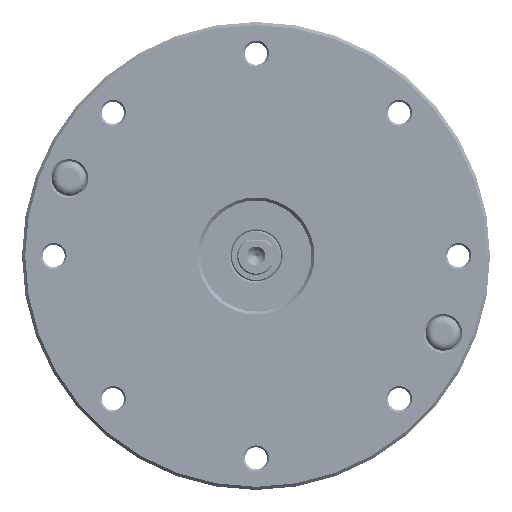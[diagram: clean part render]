
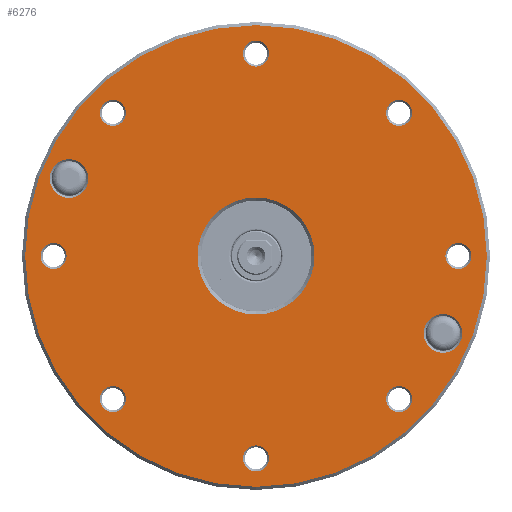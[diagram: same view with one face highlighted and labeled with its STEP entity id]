
A CAD part, front view. The second image highlights one B-rep face of the part: STEP entity #6276.
In plain terms, the highlighted planar face has unit normal (0, -1, 0) as drawn and (0, 0, -1) by its records, which use the part's own axes.
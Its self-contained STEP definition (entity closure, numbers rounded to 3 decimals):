
#5353=PLANE('',#18880);
#6276=ADVANCED_FACE('',(#7507,#7508,#7509,#7510,#7511,#7512,#7513,#7514,
#7515,#7516,#7517,#7518),#5353,.F.);
#7507=FACE_BOUND('',#8848,.T.);
#7508=FACE_BOUND('',#8849,.T.);
#7509=FACE_BOUND('',#8850,.T.);
#7510=FACE_BOUND('',#8851,.T.);
#7511=FACE_BOUND('',#8852,.T.);
#7512=FACE_BOUND('',#8853,.T.);
#7513=FACE_BOUND('',#8854,.T.);
#7514=FACE_BOUND('',#8855,.T.);
#7515=FACE_BOUND('',#8856,.T.);
#7516=FACE_BOUND('',#8857,.T.);
#7517=FACE_BOUND('',#8858,.T.);
#7518=FACE_BOUND('',#8859,.T.);
#8848=EDGE_LOOP('',(#11488));
#8849=EDGE_LOOP('',(#11489));
#8850=EDGE_LOOP('',(#11490));
#8851=EDGE_LOOP('',(#11491));
#8852=EDGE_LOOP('',(#11492));
#8853=EDGE_LOOP('',(#11493));
#8854=EDGE_LOOP('',(#11494));
#8855=EDGE_LOOP('',(#11495));
#8856=EDGE_LOOP('',(#11496));
#8857=EDGE_LOOP('',(#11497));
#8858=EDGE_LOOP('',(#11498));
#8859=EDGE_LOOP('',(#11499));
#11488=ORIENTED_EDGE('',*,*,#16320,.T.);
#11489=ORIENTED_EDGE('',*,*,#16321,.T.);
#11490=ORIENTED_EDGE('',*,*,#16322,.T.);
#11491=ORIENTED_EDGE('',*,*,#16323,.T.);
#11492=ORIENTED_EDGE('',*,*,#16324,.T.);
#11493=ORIENTED_EDGE('',*,*,#16325,.T.);
#11494=ORIENTED_EDGE('',*,*,#16326,.T.);
#11495=ORIENTED_EDGE('',*,*,#16327,.T.);
#11496=ORIENTED_EDGE('',*,*,#16328,.T.);
#11497=ORIENTED_EDGE('',*,*,#16329,.T.);
#11498=ORIENTED_EDGE('',*,*,#16330,.T.);
#11499=ORIENTED_EDGE('',*,*,#16331,.T.);
#14541=VERTEX_POINT('',#94892);
#14542=VERTEX_POINT('',#94894);
#14543=VERTEX_POINT('',#94896);
#14544=VERTEX_POINT('',#94898);
#14545=VERTEX_POINT('',#94900);
#14546=VERTEX_POINT('',#94902);
#14547=VERTEX_POINT('',#94904);
#14548=VERTEX_POINT('',#94906);
#14549=VERTEX_POINT('',#94908);
#14550=VERTEX_POINT('',#94910);
#14551=VERTEX_POINT('',#94912);
#14552=VERTEX_POINT('',#94914);
#16320=EDGE_CURVE('',#14541,#14541,#17776,.T.);
#16321=EDGE_CURVE('',#14542,#14542,#17777,.T.);
#16322=EDGE_CURVE('',#14543,#14543,#17778,.T.);
#16323=EDGE_CURVE('',#14544,#14544,#17779,.T.);
#16324=EDGE_CURVE('',#14545,#14545,#17780,.T.);
#16325=EDGE_CURVE('',#14546,#14546,#17781,.T.);
#16326=EDGE_CURVE('',#14547,#14547,#17782,.T.);
#16327=EDGE_CURVE('',#14548,#14548,#17783,.T.);
#16328=EDGE_CURVE('',#14549,#14549,#17784,.T.);
#16329=EDGE_CURVE('',#14550,#14550,#17785,.T.);
#16330=EDGE_CURVE('',#14551,#14551,#17786,.T.);
#16331=EDGE_CURVE('',#14552,#14552,#17787,.T.);
#17776=CIRCLE('',#18868,2.05);
#17777=CIRCLE('',#18869,3.05);
#17778=CIRCLE('',#18870,2.05);
#17779=CIRCLE('',#18871,2.05);
#17780=CIRCLE('',#18872,2.05);
#17781=CIRCLE('',#18873,2.05);
#17782=CIRCLE('',#18874,2.05);
#17783=CIRCLE('',#18875,2.05);
#17784=CIRCLE('',#18876,3.05);
#17785=CIRCLE('',#18877,2.05);
#17786=CIRCLE('',#18878,9.25);
#17787=CIRCLE('',#18879,36.5);
#18868=AXIS2_PLACEMENT_3D('',#94891,#21369,#21370);
#18869=AXIS2_PLACEMENT_3D('',#94893,#21371,#21372);
#18870=AXIS2_PLACEMENT_3D('',#94895,#21373,#21374);
#18871=AXIS2_PLACEMENT_3D('',#94897,#21375,#21376);
#18872=AXIS2_PLACEMENT_3D('',#94899,#21377,#21378);
#18873=AXIS2_PLACEMENT_3D('',#94901,#21379,#21380);
#18874=AXIS2_PLACEMENT_3D('',#94903,#21381,#21382);
#18875=AXIS2_PLACEMENT_3D('',#94905,#21383,#21384);
#18876=AXIS2_PLACEMENT_3D('',#94907,#21385,#21386);
#18877=AXIS2_PLACEMENT_3D('',#94909,#21387,#21388);
#18878=AXIS2_PLACEMENT_3D('',#94911,#21389,#21390);
#18879=AXIS2_PLACEMENT_3D('',#94913,#21391,#21392);
#18880=AXIS2_PLACEMENT_3D('',#94915,#21393,#21394);
#21369=DIRECTION('',(0.,0.,1.));
#21370=DIRECTION('',(1.,0.,0.));
#21371=DIRECTION('',(0.,0.,1.));
#21372=DIRECTION('',(1.,0.,0.));
#21373=DIRECTION('',(0.,0.,1.));
#21374=DIRECTION('',(1.,0.,0.));
#21375=DIRECTION('',(0.,0.,1.));
#21376=DIRECTION('',(1.,0.,0.));
#21377=DIRECTION('',(0.,0.,1.));
#21378=DIRECTION('',(1.,0.,0.));
#21379=DIRECTION('',(0.,0.,1.));
#21380=DIRECTION('',(1.,0.,0.));
#21381=DIRECTION('',(0.,0.,1.));
#21382=DIRECTION('',(1.,0.,0.));
#21383=DIRECTION('',(0.,0.,1.));
#21384=DIRECTION('',(1.,0.,0.));
#21385=DIRECTION('',(0.,0.,1.));
#21386=DIRECTION('',(1.,0.,0.));
#21387=DIRECTION('',(0.,0.,1.));
#21388=DIRECTION('',(1.,0.,0.));
#21389=DIRECTION('',(0.,0.,1.));
#21390=DIRECTION('',(1.,0.,0.));
#21391=DIRECTION('',(0.,0.,-1.));
#21392=DIRECTION('',(1.,0.,0.));
#21393=DIRECTION('',(0.,0.,1.));
#21394=DIRECTION('',(1.,0.,0.));
#94891=CARTESIAN_POINT('',(-32.,0.,0.));
#94892=CARTESIAN_POINT('',(-29.95,0.,0.));
#94893=CARTESIAN_POINT('',(-29.564,-12.246,0.));
#94894=CARTESIAN_POINT('',(-26.514,-12.246,0.));
#94895=CARTESIAN_POINT('',(-22.627,-22.627,0.));
#94896=CARTESIAN_POINT('',(-20.577,-22.627,0.));
#94897=CARTESIAN_POINT('',(0.,-32.,0.));
#94898=CARTESIAN_POINT('',(2.05,-32.,0.));
#94899=CARTESIAN_POINT('',(22.627,-22.627,0.));
#94900=CARTESIAN_POINT('',(24.677,-22.627,0.));
#94901=CARTESIAN_POINT('',(-22.627,22.627,0.));
#94902=CARTESIAN_POINT('',(-20.577,22.627,0.));
#94903=CARTESIAN_POINT('',(0.,32.,0.));
#94904=CARTESIAN_POINT('',(2.05,32.,0.));
#94905=CARTESIAN_POINT('',(22.627,22.627,0.));
#94906=CARTESIAN_POINT('',(24.677,22.627,0.));
#94907=CARTESIAN_POINT('',(29.564,12.246,0.));
#94908=CARTESIAN_POINT('',(32.614,12.246,0.));
#94909=CARTESIAN_POINT('',(32.,0.,0.));
#94910=CARTESIAN_POINT('',(34.05,0.,0.));
#94911=CARTESIAN_POINT('',(0.,0.,0.));
#94912=CARTESIAN_POINT('',(9.25,0.,0.));
#94913=CARTESIAN_POINT('',(0.,0.,0.));
#94914=CARTESIAN_POINT('',(36.5,0.,0.));
#94915=CARTESIAN_POINT('',(0.,0.,0.));
